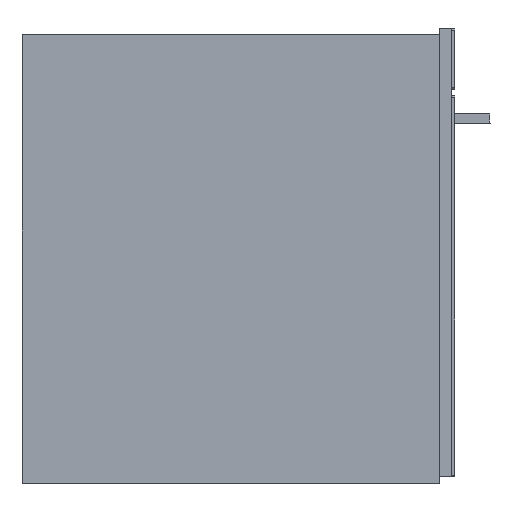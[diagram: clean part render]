
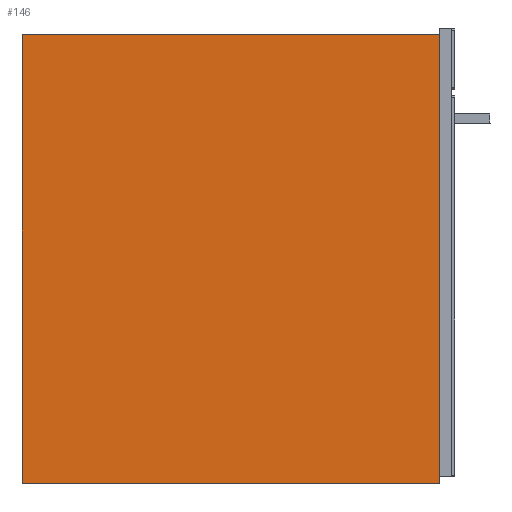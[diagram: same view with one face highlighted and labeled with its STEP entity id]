
A CAD part, left-side view. The second image highlights one B-rep face of the part: STEP entity #146.
In plain terms, the highlighted planar face has unit normal (-1, 0, 0).
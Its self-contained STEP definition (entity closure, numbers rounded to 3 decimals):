
#146=ADVANCED_FACE('',(#224),#1234,.T.);
#224=FACE_OUTER_BOUND('',#309,.T.);
#309=EDGE_LOOP('',(#663,#664,#665,#666));
#663=ORIENTED_EDGE('',*,*,#857,.T.);
#664=ORIENTED_EDGE('',*,*,#858,.T.);
#665=ORIENTED_EDGE('',*,*,#859,.T.);
#666=ORIENTED_EDGE('',*,*,#855,.F.);
#855=EDGE_CURVE('',#1166,#1167,#1012,.T.);
#857=EDGE_CURVE('',#1166,#1168,#1014,.T.);
#858=EDGE_CURVE('',#1168,#1169,#1015,.T.);
#859=EDGE_CURVE('',#1169,#1167,#1016,.T.);
#1012=B_SPLINE_CURVE_WITH_KNOTS('',1,(#2814,#2815),.UNSPECIFIED.,.F.,.F.,
(2,2),(-1.936,0.),.UNSPECIFIED.);
#1014=B_SPLINE_CURVE_WITH_KNOTS('',1,(#2818,#2819),.UNSPECIFIED.,.F.,.F.,
(2,2),(-1.801,0.),.UNSPECIFIED.);
#1015=B_SPLINE_CURVE_WITH_KNOTS('',1,(#2820,#2821),.UNSPECIFIED.,.F.,.F.,
(2,2),(-1.936,0.),.UNSPECIFIED.);
#1016=B_SPLINE_CURVE_WITH_KNOTS('',1,(#2822,#2823),.UNSPECIFIED.,.F.,.F.,
(2,2),(-1.801,0.),.UNSPECIFIED.);
#1166=VERTEX_POINT('',#2800);
#1167=VERTEX_POINT('',#2801);
#1168=VERTEX_POINT('',#2802);
#1169=VERTEX_POINT('',#2803);
#1234=PLANE('',#1403);
#1403=AXIS2_PLACEMENT_3D('',#2792,#1478,$);
#1478=DIRECTION('',(-1.,0.,0.));
#2792=CARTESIAN_POINT('',(-273.,569.01,590.01));
#2800=CARTESIAN_POINT('',(-273.,20.,590.));
#2801=CARTESIAN_POINT('',(-273.,20.,0.));
#2802=CARTESIAN_POINT('',(-273.,569.,590.));
#2803=CARTESIAN_POINT('',(-273.,569.,0.));
#2814=CARTESIAN_POINT('',(-273.,20.,590.));
#2815=CARTESIAN_POINT('',(-273.,20.,0.));
#2818=CARTESIAN_POINT('',(-273.,20.,590.));
#2819=CARTESIAN_POINT('',(-273.,569.,590.));
#2820=CARTESIAN_POINT('',(-273.,569.,590.));
#2821=CARTESIAN_POINT('',(-273.,569.,0.));
#2822=CARTESIAN_POINT('',(-273.,569.,0.));
#2823=CARTESIAN_POINT('',(-273.,20.,0.));
